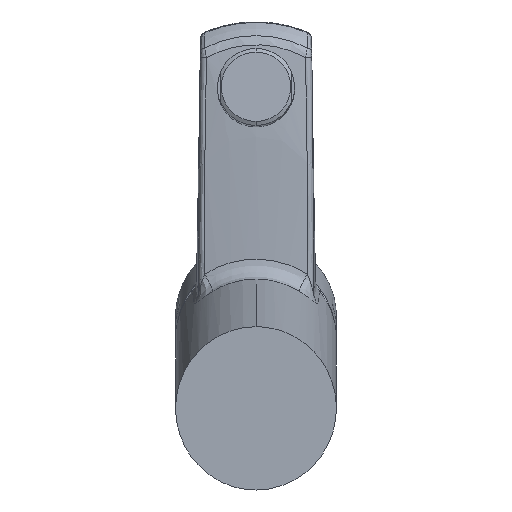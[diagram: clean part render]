
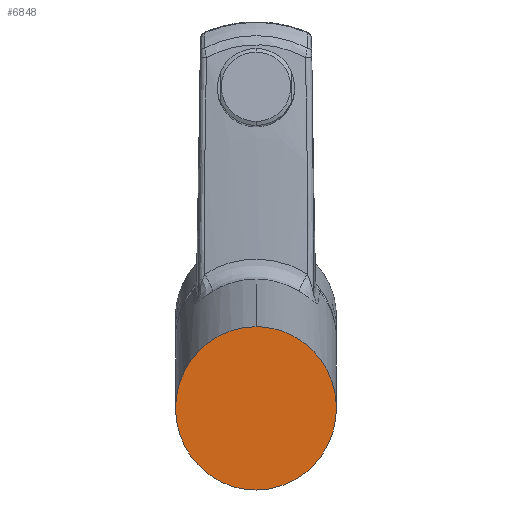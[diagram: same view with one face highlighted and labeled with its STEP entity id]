
A CAD part, front view. The second image highlights one B-rep face of the part: STEP entity #6848.
In plain terms, the highlighted planar face has unit normal (0, -1, 0).
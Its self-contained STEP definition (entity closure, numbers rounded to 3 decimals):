
#269 =( BOUNDED_CURVE ( )  B_SPLINE_CURVE ( 3, ( #2912, #5795, #2993, #6980 ),
 .UNSPECIFIED., .F., .T. ) 
 B_SPLINE_CURVE_WITH_KNOTS ( ( 4, 4 ),
 ( 0., 3.142 ),
 .UNSPECIFIED. ) 
 CURVE ( )  GEOMETRIC_REPRESENTATION_ITEM ( )  RATIONAL_B_SPLINE_CURVE ( ( 1., 0.333, 0.333, 1. ) ) 
 REPRESENTATION_ITEM ( '' )  );
#583 = CARTESIAN_POINT ( 'NONE',  ( 0., 0., -26.091 ) ) ;
#647 = CARTESIAN_POINT ( 'NONE',  ( 0., 0., 0. ) ) ;
#726 = EDGE_CURVE ( 'NONE', #2272, #6783, #6967, .T. ) ;
#924 = EDGE_CURVE ( 'NONE', #6783, #2272, #269, .T. ) ;
#1716 = CARTESIAN_POINT ( 'NONE',  ( 0., 0., 24.68 ) ) ;
#1803 = PLANE ( 'NONE',  #3939 ) ;
#2272 = VERTEX_POINT ( 'NONE', #2287 ) ;
#2287 = CARTESIAN_POINT ( 'NONE',  ( 0., 0., -26.091 ) ) ;
#2381 = DIRECTION ( 'NONE',  ( 0., 0., 1. ) ) ;
#2876 = FACE_OUTER_BOUND ( 'NONE', #6498, .T. ) ;
#2883 = CARTESIAN_POINT ( 'NONE',  ( 50., 0., 24.68 ) ) ;
#2912 = CARTESIAN_POINT ( 'NONE',  ( 0., 0., 24.68 ) ) ;
#2993 = CARTESIAN_POINT ( 'NONE',  ( -50., 0., -26.091 ) ) ;
#3939 = AXIS2_PLACEMENT_3D ( 'NONE', #647, #5800, #2381 ) ;
#4227 = ORIENTED_EDGE ( 'NONE', *, *, #924, .T. ) ;
#4620 = CARTESIAN_POINT ( 'NONE',  ( 0., 0., 24.68 ) ) ;
#5715 = CARTESIAN_POINT ( 'NONE',  ( 50., 0., -26.091 ) ) ;
#5795 = CARTESIAN_POINT ( 'NONE',  ( -50., 0., 24.68 ) ) ;
#5800 = DIRECTION ( 'NONE',  ( 0., 1., 0. ) ) ;
#6477 = ORIENTED_EDGE ( 'NONE', *, *, #726, .T. ) ;
#6498 = EDGE_LOOP ( 'NONE', ( #4227, #6477 ) ) ;
#6783 = VERTEX_POINT ( 'NONE', #1716 ) ;
#6848 = ADVANCED_FACE ( 'NONE', ( #2876 ), #1803, .F. ) ;
#6967 =( BOUNDED_CURVE ( )  B_SPLINE_CURVE ( 3, ( #583, #5715, #2883, #4620 ),
 .UNSPECIFIED., .F., .T. ) 
 B_SPLINE_CURVE_WITH_KNOTS ( ( 4, 4 ),
 ( 3.142, 6.283 ),
 .UNSPECIFIED. ) 
 CURVE ( )  GEOMETRIC_REPRESENTATION_ITEM ( )  RATIONAL_B_SPLINE_CURVE ( ( 1., 0.333, 0.333, 1. ) ) 
 REPRESENTATION_ITEM ( '' )  );
#6980 = CARTESIAN_POINT ( 'NONE',  ( 0., 0., -26.091 ) ) ;
